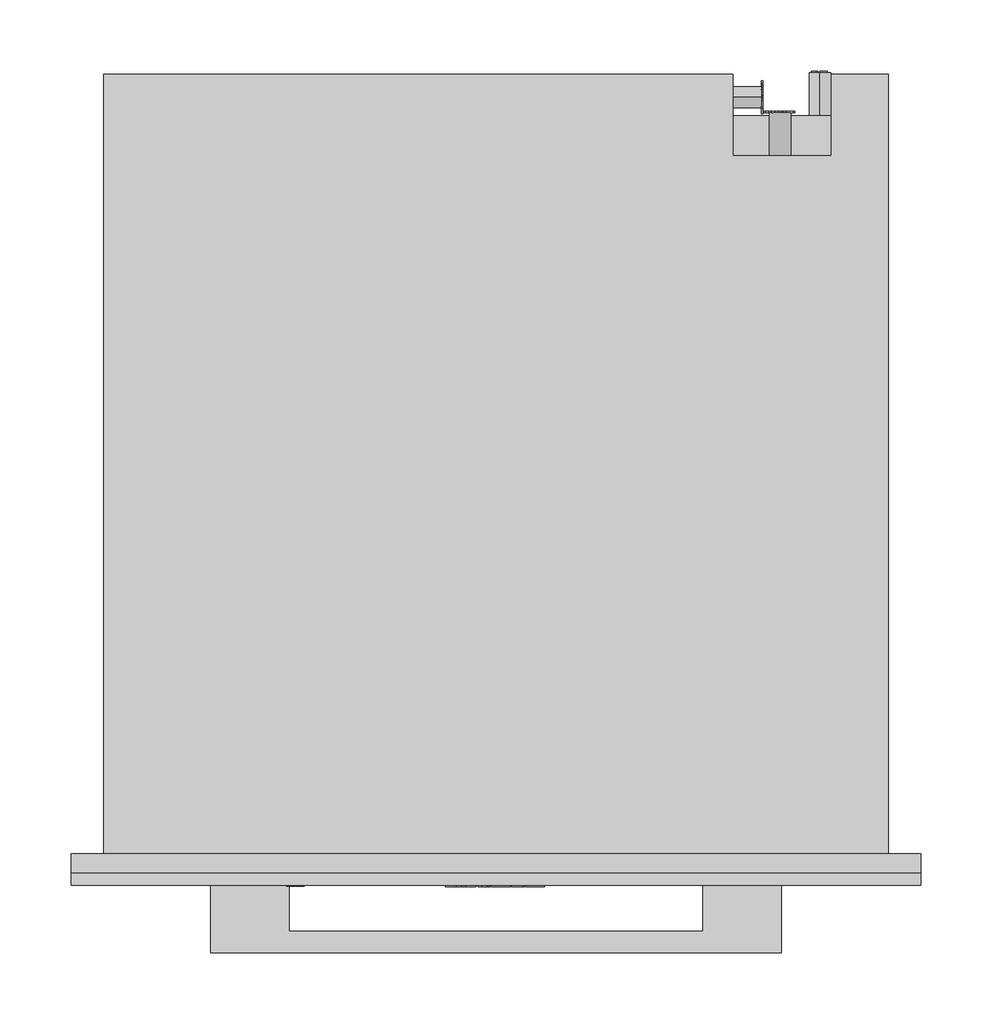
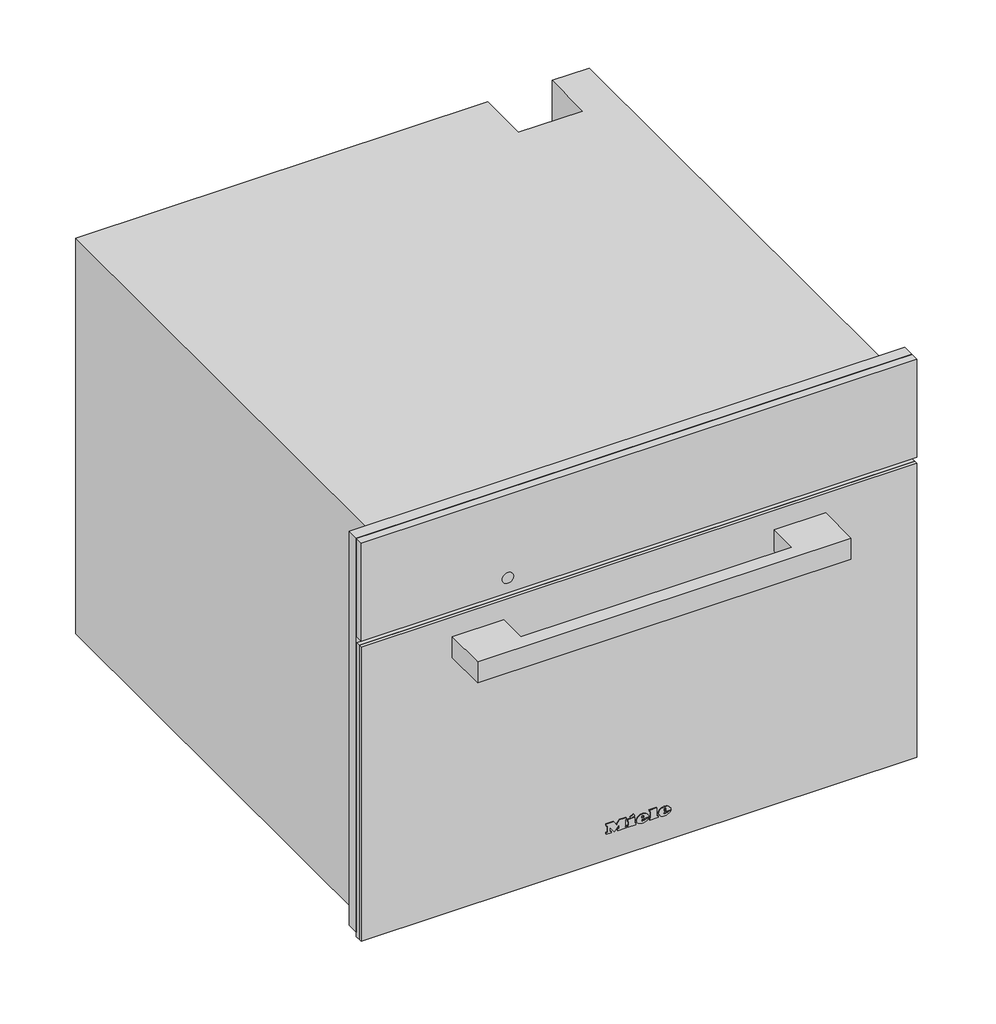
# Not in any storey: 1 proxy.
"""IFC4 building model written with IfcOpenShell, lengths in millimetres."""

from ifc_helpers import new_model, si_unit, origin, place, context, project, spatial, transform, mapped, element, save
from components import specialty_equipment_906b5979

model = new_model("IFC4")

# Units and contexts
model_context = context("Model", 3, world=origin())
ifc_project = project(units=[si_unit("LENGTHUNIT", "METRE", prefix="MILLI")], contexts=[model_context])

# Site, building
site = spatial("IfcSite", under=ifc_project)
building = spatial("IfcBuilding", under=site)

# Proxy
placement = place(None, origin())
specialty_equipment_shape = specialty_equipment_906b5979(model_context)
element("IfcBuildingElementProxy", 1, Name="12095080_F_DGC7845HCPro_BRWS : 23784518_F_12095080_DGC7845HCPro_BRWS", ObjectType="12095080_F_DGC7845HCPro_BRWS : 23784518_F_12095080_DGC7845HCPro_BRWS", at=placement, inside=building, context=model_context, shape_type="MappedRepresentation", body=[
    mapped(specialty_equipment_shape, transform((0.0, 0.0, 0.0), x_axis=(1.0, 0.0, 0.0), y_axis=(0.0, 1.0, 0.0), z_axis=(0.0, 0.0, 1.0))),
])

save(model, "model.ifc")
